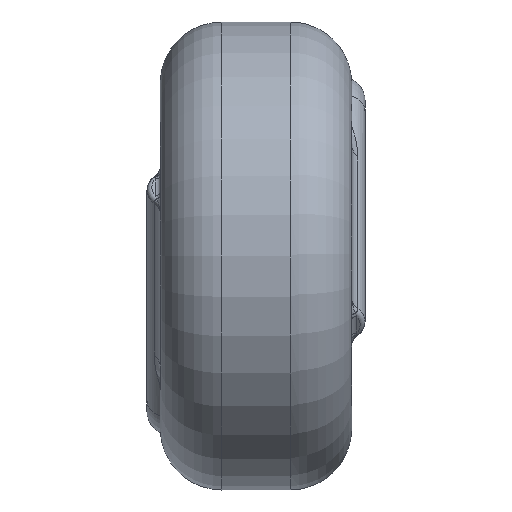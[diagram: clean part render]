
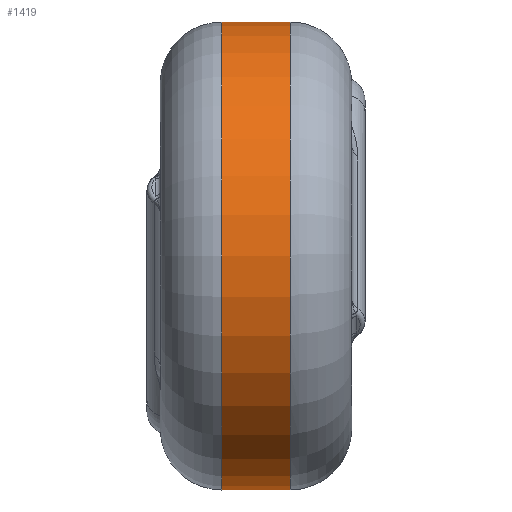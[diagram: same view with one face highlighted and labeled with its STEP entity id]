
A CAD part, left-side view. The second image highlights one B-rep face of the part: STEP entity #1419.
In plain terms, the highlighted cylindrical face has radius 9.55 mm (diameter 19.1 mm), a full revolution.
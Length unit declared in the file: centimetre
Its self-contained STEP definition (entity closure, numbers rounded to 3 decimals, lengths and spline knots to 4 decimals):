
#980=CARTESIAN_POINT('',(0.955,0.45,0.));
#981=VERTEX_POINT('',#980);
#982=CARTESIAN_POINT('',(0.0,0.45,0.0));
#983=DIRECTION('',(0.0,1.0,0.0));
#984=DIRECTION('',(-1.0,0.0,0.0));
#985=AXIS2_PLACEMENT_3D('',#982,#983,#984);
#986=CIRCLE('',#985,0.955);
#987=EDGE_CURVE('',#981,#981,#986,.T.);
#1310=CARTESIAN_POINT('',(0.955,0.169,0.));
#1311=VERTEX_POINT('',#1310);
#1312=CARTESIAN_POINT('',(0.0,0.169,0.0));
#1313=DIRECTION('',(0.0,-1.0,0.0));
#1314=DIRECTION('',(-1.0,0.0,0.0));
#1315=AXIS2_PLACEMENT_3D('',#1312,#1313,#1314);
#1316=CIRCLE('',#1315,0.955);
#1317=EDGE_CURVE('',#1311,#1311,#1316,.T.);
#1408=CARTESIAN_POINT('',(0.0,0.3095,0.0));
#1409=DIRECTION('',(0.0,1.0,0.0));
#1410=DIRECTION('',(-1.0,0.0,0.0));
#1411=AXIS2_PLACEMENT_3D('',#1408,#1409,#1410);
#1412=CYLINDRICAL_SURFACE('',#1411,0.955);
#1413=ORIENTED_EDGE('',*,*,#987,.F.);
#1414=EDGE_LOOP('',(#1413));
#1415=FACE_OUTER_BOUND('',#1414,.T.);
#1416=ORIENTED_EDGE('',*,*,#1317,.F.);
#1417=EDGE_LOOP('',(#1416));
#1418=FACE_BOUND('',#1417,.T.);
#1419=ADVANCED_FACE('',(#1415,#1418),#1412,.T.);
